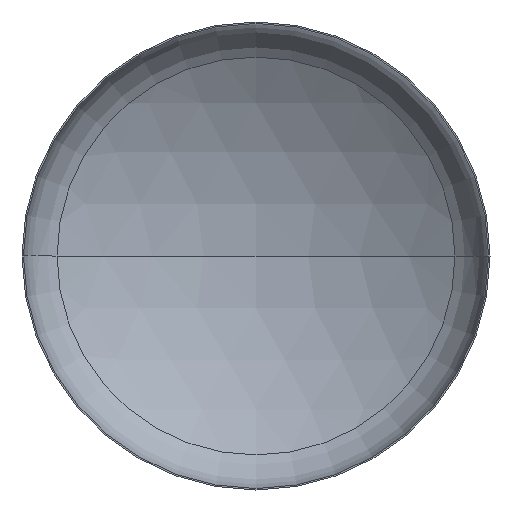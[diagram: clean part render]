
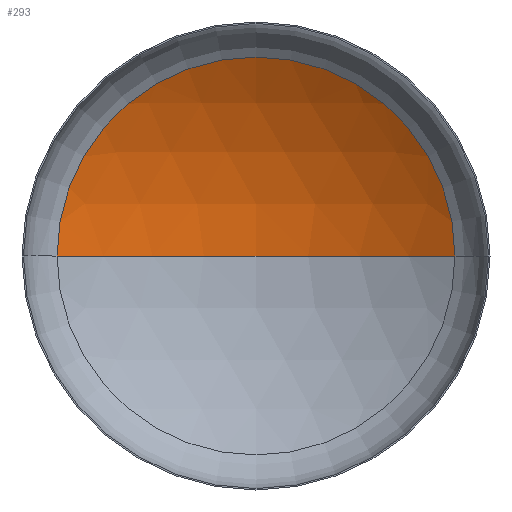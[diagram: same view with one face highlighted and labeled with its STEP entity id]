
A CAD part, front view. The second image highlights one B-rep face of the part: STEP entity #293.
In plain terms, the highlighted spherical face has radius 2560 mm.
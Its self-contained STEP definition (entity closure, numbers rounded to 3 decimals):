
#4 = ORIENTED_EDGE ( 'NONE', *, *, #204, .T. ) ;
#11 = EDGE_LOOP ( 'NONE', ( #14, #41, #4 ) ) ;
#14 = ORIENTED_EDGE ( 'NONE', *, *, #210, .F. ) ;
#41 = ORIENTED_EDGE ( 'NONE', *, *, #206, .T. ) ;
#57 = VERTEX_POINT ( 'NONE', #233 ) ;
#81 = VERTEX_POINT ( 'NONE', #229 ) ;
#103 = DIRECTION ( 'NONE',  ( -1., 0., 0. ) ) ;
#105 = VERTEX_POINT ( 'NONE', #219 ) ;
#115 = SPHERICAL_SURFACE ( 'NONE', #126, 2560. ) ;
#126 = AXIS2_PLACEMENT_3D ( 'NONE', #404, #387, #103 ) ;
#130 = AXIS2_PLACEMENT_3D ( 'NONE', #261, #232, #231 ) ;
#135 = AXIS2_PLACEMENT_3D ( 'NONE', #248, #245, #243 ) ;
#138 = AXIS2_PLACEMENT_3D ( 'NONE', #196, #199, #212 ) ;
#143 = CIRCLE ( 'NONE', #135, 2560. ) ;
#196 = CARTESIAN_POINT ( 'NONE',  ( 0., 445.089, 0. ) ) ;
#199 = DIRECTION ( 'NONE',  ( 0., -1., 0. ) ) ;
#204 = EDGE_CURVE ( 'NONE', #57, #105, #228, .T. ) ;
#206 = EDGE_CURVE ( 'NONE', #81, #57, #143, .T. ) ;
#210 = EDGE_CURVE ( 'NONE', #81, #105, #336, .T. ) ;
#212 = DIRECTION ( 'NONE',  ( 1., 0., 0. ) ) ;
#219 = CARTESIAN_POINT ( 'NONE',  ( -1360.386, 445.089, 0. ) ) ;
#228 = CIRCLE ( 'NONE', #138, 1360.386 ) ;
#229 = CARTESIAN_POINT ( 'NONE',  ( 0., 836.461, 0. ) ) ;
#231 = DIRECTION ( 'NONE',  ( 1., 0., 0. ) ) ;
#232 = DIRECTION ( 'NONE',  ( 0., 0., 1. ) ) ;
#233 = CARTESIAN_POINT ( 'NONE',  ( 1360.386, 445.089, 0. ) ) ;
#243 = DIRECTION ( 'NONE',  ( -1., 0., 0. ) ) ;
#245 = DIRECTION ( 'NONE',  ( 0., 0., -1. ) ) ;
#248 = CARTESIAN_POINT ( 'NONE',  ( 0., -1723.539, 0. ) ) ;
#261 = CARTESIAN_POINT ( 'NONE',  ( 0., -1723.539, 0. ) ) ;
#276 = FACE_OUTER_BOUND ( 'NONE', #11, .T. ) ;
#293 = ADVANCED_FACE ( 'NONE', ( #276 ), #115, .F. ) ;
#336 = CIRCLE ( 'NONE', #130, 2560. ) ;
#387 = DIRECTION ( 'NONE',  ( 0., 0., -1. ) ) ;
#404 = CARTESIAN_POINT ( 'NONE',  ( 0., -1723.539, 0. ) ) ;
